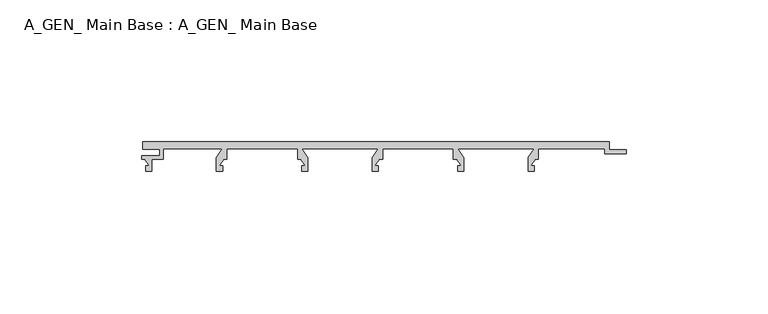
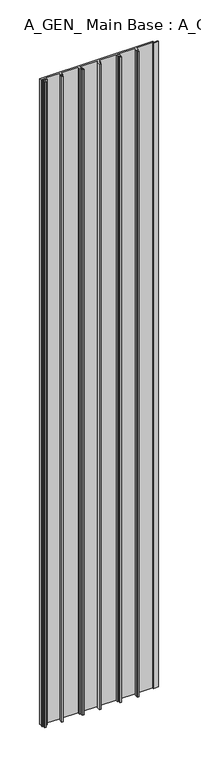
"""IFC4 building model written with IfcOpenShell, lengths in millimetres: proxy geometry, A_GEN_ Main Base : A_GEN_ Main Base."""

from ifc_helpers import new_model, si_unit, origin, origin_with_axes, place, context, project, spatial, polyline, outline, extrude, source, transform, mapped, element, save


def a_gen_main_base_a_gen_main_base_1f58835e(model_context):
    return source(origin(), model_context, "Body", "SweptSolid", [
        extrude(outline(polyline([(0.0, 0.0), (164.5761088, 0.0), (164.5761088, -2.85), (170.5761088, -2.85), (170.5761088, -4.2), (163.0577537, -4.2), (163.0577537, -2.4), (139.5881862, -2.4), (139.5881862, -6.1021884), (138.4732128, -6.1021884), (136.884647, -8.4994005), (138.1465809, -8.4994005), (138.1465809, -10.4818695), (135.9440548, -10.4818695), (135.9773381, -5.5238337), (138.0474159, -2.4), (111.1309809, -2.4), (113.2301021, -5.6343123), (113.2301021, -10.4818695), (111.027576, -10.4818695), (111.027576, -8.4994005), (112.2895099, -8.4994005), (110.7009441, -6.1021884), (109.5859707, -6.1021884), (109.5859707, -2.4), (84.5854713, -2.4), (84.5854713, -6.1021884), (83.4704978, -6.1021884), (81.881932, -8.4994005), (83.1438659, -8.4994005), (83.1438659, -10.4818695), (80.9413399, -10.4818695), (80.9413399, -5.5740595), (83.0447009, -2.4), (56.1304815, -2.4), (58.2296027, -5.6343123), (58.2296027, -10.4818695), (56.0270766, -10.4818695), (56.0270766, -8.4994005), (57.2890105, -8.4994005), (55.7004447, -6.1021884), (54.5854713, -6.1021884), (54.5854713, -2.4), (29.5849719, -2.4), (29.5849719, -6.1021884), (28.4699984, -6.1021884), (26.8814326, -8.4994005), (28.1433665, -8.4994005), (28.1433665, -10.4818695), (25.9408405, -10.4818695), (25.9408405, -5.6343123), (28.0399616, -2.4), (7.2195527, -2.4), (7.2195527, -6.1), (3.2291033, -6.1), (3.2291033, -10.4818695), (1.0265772, -10.4818695), (1.0265772, -8.4994005), (2.2885111, -8.4994005), (0.6999453, -6.1021884), (-0.3862402, -6.1021884), (-0.3862402, -4.9), (6.0195527, -4.9), (6.0195527, -2.7), (0.0, -2.7), (0.0, 0.0)])), origin_with_axes(), (0.0, 0.0, 1.0), 992.5516144),
    ])


if __name__ == "__main__":
    model = new_model("IFC4")
    model_context = context("Model", 3, world=origin())
    ifc_project = project(units=[si_unit("LENGTHUNIT", "METRE", prefix="MILLI")], contexts=[model_context])
    site = spatial("IfcSite", under=ifc_project)
    building = spatial("IfcBuilding", under=site)
    placement = place(None, origin())
    a_gen_main_base_a_gen_main_base_shape = a_gen_main_base_a_gen_main_base_1f58835e(model_context)
    element("IfcBuildingElementProxy", 1, Name="A_GEN_ Main Base : A_GEN_ Main Base", ObjectType="A_GEN_ Main Base : A_GEN_ Main Base", at=placement, inside=building, context=model_context, shape_type="MappedRepresentation", body=[
        mapped(a_gen_main_base_a_gen_main_base_shape, transform((0.0, 0.0, 0.0), x_axis=(1.0, 0.0, 0.0), y_axis=(0.0, 1.0, 0.0), z_axis=(0.0, 0.0, 1.0))),
    ])
    save(model, "model.ifc")
